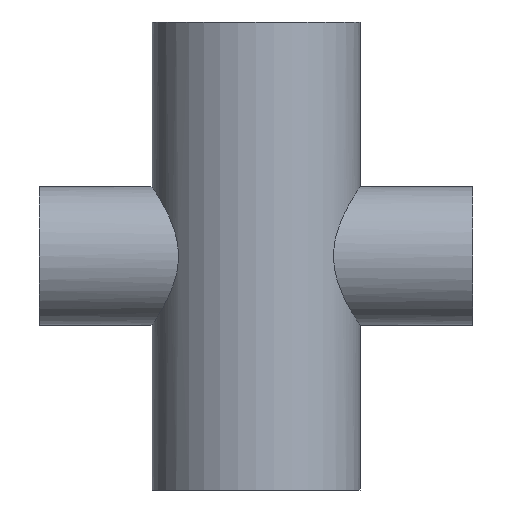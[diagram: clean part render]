
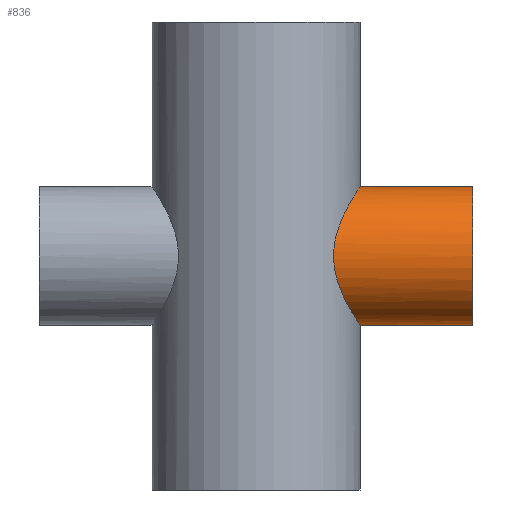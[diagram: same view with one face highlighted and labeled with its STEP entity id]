
A CAD part, front view. The second image highlights one B-rep face of the part: STEP entity #836.
In plain terms, the highlighted cylindrical face has radius 25.4 mm (diameter 50.8 mm), a partial arc.
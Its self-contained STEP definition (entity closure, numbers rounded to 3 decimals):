
#11 = CARTESIAN_POINT ( 'NONE',  ( 31.141, -21.956, 12.797 ) ) ;
#20 = CARTESIAN_POINT ( 'NONE',  ( 37.506, -6.755, -24.5 ) ) ;
#33 = CARTESIAN_POINT ( 'NONE',  ( 37.176, -8.381, -23.993 ) ) ;
#56 = CARTESIAN_POINT ( 'NONE',  ( 34.766, -15.653, 20.069 ) ) ;
#72 = CARTESIAN_POINT ( 'NONE',  ( 36.333, -11.495, 22.665 ) ) ;
#79 = CARTESIAN_POINT ( 'NONE',  ( 36.989, -9.169, -23.702 ) ) ;
#93 = CARTESIAN_POINT ( 'NONE',  ( 36.575, -10.702, -23.05 ) ) ;
#94 = AXIS2_PLACEMENT_3D ( 'NONE', #498, #494, #503 ) ;
#99 = CARTESIAN_POINT ( 'NONE',  ( 29.188, -24.49, -6.791 ) ) ;
#124 = CARTESIAN_POINT ( 'NONE',  ( 29.009, -24.701, -5.976 ) ) ;
#127 = CARTESIAN_POINT ( 'NONE',  ( 28.441, -25.353, -1.774 ) ) ;
#138 = CARTESIAN_POINT ( 'NONE',  ( 32.967, -19.108, -16.754 ) ) ;
#147 = CARTESIAN_POINT ( 'NONE',  ( 38.1, -1.737, -25.4 ) ) ;
#151 = CARTESIAN_POINT ( 'NONE',  ( 32.796, -19.394, 16.407 ) ) ;
#154 = CARTESIAN_POINT ( 'NONE',  ( -79.375, 0., -25.4 ) ) ;
#157 = DIRECTION ( 'NONE',  ( 1., 0., 0. ) ) ;
#169 = CARTESIAN_POINT ( 'NONE',  ( 28.598, -25.175, -3.482 ) ) ;
#173 = CARTESIAN_POINT ( 'NONE',  ( 38.1, 0., -25.4 ) ) ;
#179 = CYLINDRICAL_SURFACE ( 'NONE', #577, 25.4 ) ;
#187 = ORIENTED_EDGE ( 'NONE', *, *, #322, .F. ) ;
#189 = DIRECTION ( 'NONE',  ( 1., 0., 0. ) ) ;
#190 = CARTESIAN_POINT ( 'NONE',  ( 38.1, 0., -25.4 ) ) ;
#196 = CARTESIAN_POINT ( 'NONE',  ( 36.348, -11.446, -22.69 ) ) ;
#210 = FACE_OUTER_BOUND ( 'NONE', #961, .T. ) ;
#212 = CARTESIAN_POINT ( 'NONE',  ( 32.03, -20.639, 14.827 ) ) ;
#217 = CARTESIAN_POINT ( 'NONE',  ( 29.177, -24.501, 6.71 ) ) ;
#242 = CARTESIAN_POINT ( 'NONE',  ( 29.58, -24.016, 8.313 ) ) ;
#254 = LINE ( 'NONE', #154, #291 ) ;
#255 = CARTESIAN_POINT ( 'NONE',  ( 33.258, -18.59, 17.313 ) ) ;
#257 = EDGE_CURVE ( 'NONE', #399, #462, #911, .T. ) ;
#275 = CARTESIAN_POINT ( 'NONE',  ( -79.375, 0., 0. ) ) ;
#282 = CARTESIAN_POINT ( 'NONE',  ( 35.861, -12.891, -21.901 ) ) ;
#285 = CARTESIAN_POINT ( 'NONE',  ( 34.777, -15.631, -20.088 ) ) ;
#287 = CARTESIAN_POINT ( 'NONE',  ( 29.809, -23.731, 9.092 ) ) ;
#291 = VECTOR ( 'NONE', #157, 1000. ) ;
#304 = CARTESIAN_POINT ( 'NONE',  ( 35.6, -13.594, -21.472 ) ) ;
#313 = CARTESIAN_POINT ( 'NONE',  ( 31.15, -21.964, -12.858 ) ) ;
#318 = CARTESIAN_POINT ( 'NONE',  ( 38.063, -1.733, 25.344 ) ) ;
#320 = VERTEX_POINT ( 'NONE', #190 ) ;
#322 = EDGE_CURVE ( 'NONE', #320, #906, #486, .T. ) ;
#325 = CARTESIAN_POINT ( 'NONE',  ( 29.273, -24.387, 7.115 ) ) ;
#342 = CARTESIAN_POINT ( 'NONE',  ( 38.1, -0.434, 25.4 ) ) ;
#379 = ORIENTED_EDGE ( 'NONE', *, *, #257, .T. ) ;
#391 = CARTESIAN_POINT ( 'NONE',  ( -79.375, 0., 25.4 ) ) ;
#392 = CARTESIAN_POINT ( 'NONE',  ( 38.1, 0., 25.4 ) ) ;
#396 = DIRECTION ( 'NONE',  ( 1., 0., 0. ) ) ;
#399 = VERTEX_POINT ( 'NONE', #483 ) ;
#402 = CARTESIAN_POINT ( 'NONE',  ( 32.95, -19.131, 16.713 ) ) ;
#410 = ORIENTED_EDGE ( 'NONE', *, *, #643, .T. ) ;
#462 = VERTEX_POINT ( 'NONE', #951 ) ;
#471 = CARTESIAN_POINT ( 'NONE',  ( 34.177, -16.888, 19.041 ) ) ;
#481 = CARTESIAN_POINT ( 'NONE',  ( 37.521, -6.828, 24.525 ) ) ;
#483 = CARTESIAN_POINT ( 'NONE',  ( 79.375, 0., -25.4 ) ) ;
#486 = B_SPLINE_CURVE_WITH_KNOTS ( 'NONE', 3,
 ( #173, #147, #526, #545, #20, #33, #79, #93, #196, #282, #304, #285, #907, #742, #138, #730, #994, #313, #963, #914, #975, #739, #992, #99, #124, #982, #169, #127, #775, #857, #685, #986, #997, #217, #325, #242, #287, #972, #721, #11, #846, #212, #669, #151, #402, #255, #990, #471, #56, #895, #690, #72, #701, #874, #481, #843, #863, #934, #318, #605, #342, #392 ),
 .UNSPECIFIED., .F., .F.,
 ( 4, 2, 2, 2, 2, 2, 2, 2, 2, 2, 2, 2, 2, 2, 2, 2, 2, 2, 2, 2, 2, 2, 2, 2, 2, 2, 2, 2, 2, 2, 4 ),
 ( 0.082, 0.087, 0.09, 0.092, 0.095, 0.097, 0.103, 0.105, 0.108, 0.113, 0.114, 0.115, 0.118, 0.12, 0.123, 0.128, 0.129, 0.131, 0.133, 0.136, 0.138, 0.141, 0.142, 0.144, 0.149, 0.151, 0.154, 0.159, 0.161, 0.163, 0.164 ),
 .UNSPECIFIED. ) ;
#494 = DIRECTION ( 'NONE',  ( -1., 0., 0. ) ) ;
#498 = CARTESIAN_POINT ( 'NONE',  ( 79.375, 0., 0. ) ) ;
#503 = DIRECTION ( 'NONE',  ( 0., 0., -1. ) ) ;
#526 = CARTESIAN_POINT ( 'NONE',  ( 37.982, -3.436, -25.224 ) ) ;
#537 = EDGE_CURVE ( 'NONE', #906, #462, #937, .T. ) ;
#545 = CARTESIAN_POINT ( 'NONE',  ( 37.645, -5.931, -24.712 ) ) ;
#577 = AXIS2_PLACEMENT_3D ( 'NONE', #275, #189, #735 ) ;
#605 = CARTESIAN_POINT ( 'NONE',  ( 38.093, -0.869, 25.389 ) ) ;
#606 = CARTESIAN_POINT ( 'NONE',  ( 38.1, 0., 25.4 ) ) ;
#643 = EDGE_CURVE ( 'NONE', #320, #399, #254, .T. ) ;
#669 = CARTESIAN_POINT ( 'NONE',  ( 32.335, -20.159, 15.473 ) ) ;
#685 = CARTESIAN_POINT ( 'NONE',  ( 28.551, -25.232, 3.381 ) ) ;
#690 = CARTESIAN_POINT ( 'NONE',  ( 35.841, -12.946, 21.869 ) ) ;
#701 = CARTESIAN_POINT ( 'NONE',  ( 36.564, -10.739, 23.033 ) ) ;
#721 = CARTESIAN_POINT ( 'NONE',  ( 30.578, -22.733, 11.359 ) ) ;
#730 = CARTESIAN_POINT ( 'NONE',  ( 32.351, -20.134, -15.506 ) ) ;
#735 = DIRECTION ( 'NONE',  ( 0., 0., -1. ) ) ;
#739 = CARTESIAN_POINT ( 'NONE',  ( 29.61, -23.977, -8.393 ) ) ;
#742 = CARTESIAN_POINT ( 'NONE',  ( 33.275, -18.568, -17.35 ) ) ;
#775 = CARTESIAN_POINT ( 'NONE',  ( 28.399, -25.399, -0.901 ) ) ;
#836 = ADVANCED_FACE ( 'NONE', ( #210 ), #179, .T. ) ;
#843 = CARTESIAN_POINT ( 'NONE',  ( 37.865, -4.312, 25.046 ) ) ;
#846 = CARTESIAN_POINT ( 'NONE',  ( 31.433, -21.537, 13.489 ) ) ;
#857 = CARTESIAN_POINT ( 'NONE',  ( 28.396, -25.403, 1.683 ) ) ;
#863 = CARTESIAN_POINT ( 'NONE',  ( 37.953, -3.454, 25.179 ) ) ;
#874 = CARTESIAN_POINT ( 'NONE',  ( 37.189, -8.432, 24.018 ) ) ;
#895 = CARTESIAN_POINT ( 'NONE',  ( 35.581, -13.642, 21.441 ) ) ;
#906 = VERTEX_POINT ( 'NONE', #606 ) ;
#907 = CARTESIAN_POINT ( 'NONE',  ( 34.186, -16.87, -19.056 ) ) ;
#911 = CIRCLE ( 'NONE', #94, 25.4 ) ;
#914 = CARTESIAN_POINT ( 'NONE',  ( 29.961, -23.537, -9.557 ) ) ;
#929 = VECTOR ( 'NONE', #396, 1000. ) ;
#934 = CARTESIAN_POINT ( 'NONE',  ( 38.041, -2.164, 25.311 ) ) ;
#937 = LINE ( 'NONE', #391, #929 ) ;
#951 = CARTESIAN_POINT ( 'NONE',  ( 79.375, 0., 25.4 ) ) ;
#961 = EDGE_LOOP ( 'NONE', ( #996, #187, #410, #379 ) ) ;
#963 = CARTESIAN_POINT ( 'NONE',  ( 30.584, -22.735, -11.444 ) ) ;
#972 = CARTESIAN_POINT ( 'NONE',  ( 30.308, -23.091, 10.613 ) ) ;
#975 = CARTESIAN_POINT ( 'NONE',  ( 29.841, -23.689, -9.173 ) ) ;
#982 = CARTESIAN_POINT ( 'NONE',  ( 28.713, -25.044, -4.322 ) ) ;
#986 = CARTESIAN_POINT ( 'NONE',  ( 28.918, -24.807, 5.474 ) ) ;
#990 = CARTESIAN_POINT ( 'NONE',  ( 33.413, -18.311, 17.608 ) ) ;
#992 = CARTESIAN_POINT ( 'NONE',  ( 29.5, -24.113, -7.995 ) ) ;
#994 = CARTESIAN_POINT ( 'NONE',  ( 32.044, -20.617, -14.858 ) ) ;
#996 = ORIENTED_EDGE ( 'NONE', *, *, #537, .F. ) ;
#997 = CARTESIAN_POINT ( 'NONE',  ( 29., -24.711, 5.891 ) ) ;
